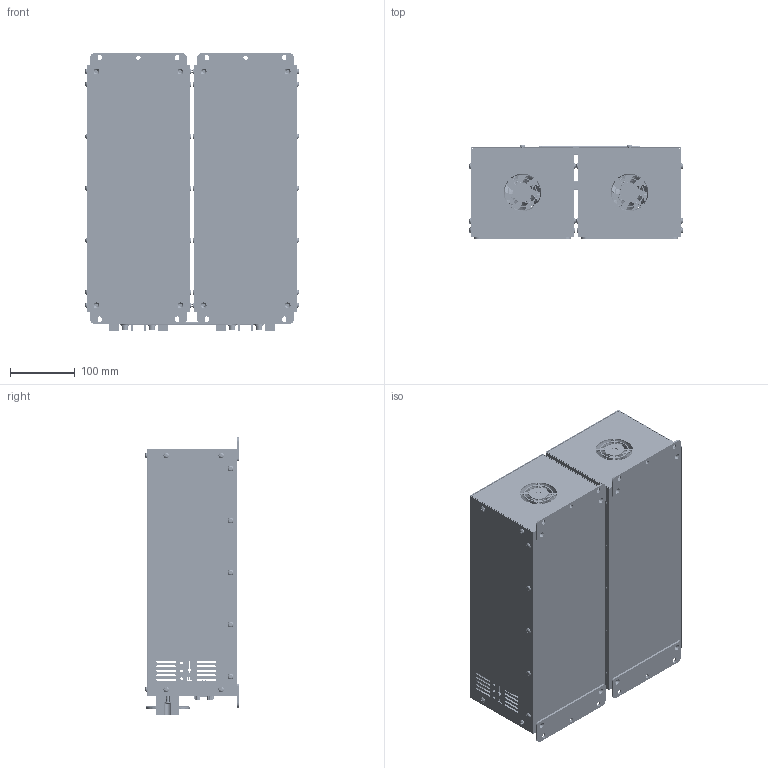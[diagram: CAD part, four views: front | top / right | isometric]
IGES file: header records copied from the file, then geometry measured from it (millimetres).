
Global section: file name: X2COM-BUSBAR; native system: Autodesk Inventor 2021; preprocessor: unknown; author: eunsol jang; date: 20230825.150045; units: inch
Bounding box: 331.84 x 145.97 x 431 mm (x, y, z)
Volume: 1053711.8 mm3; surface area: 1311184.3 mm2
Topology: 13 solids, 13 shells, 8232 faces, 22492 edges, 14946 vertices
Faces by surface type: bspline 8232
